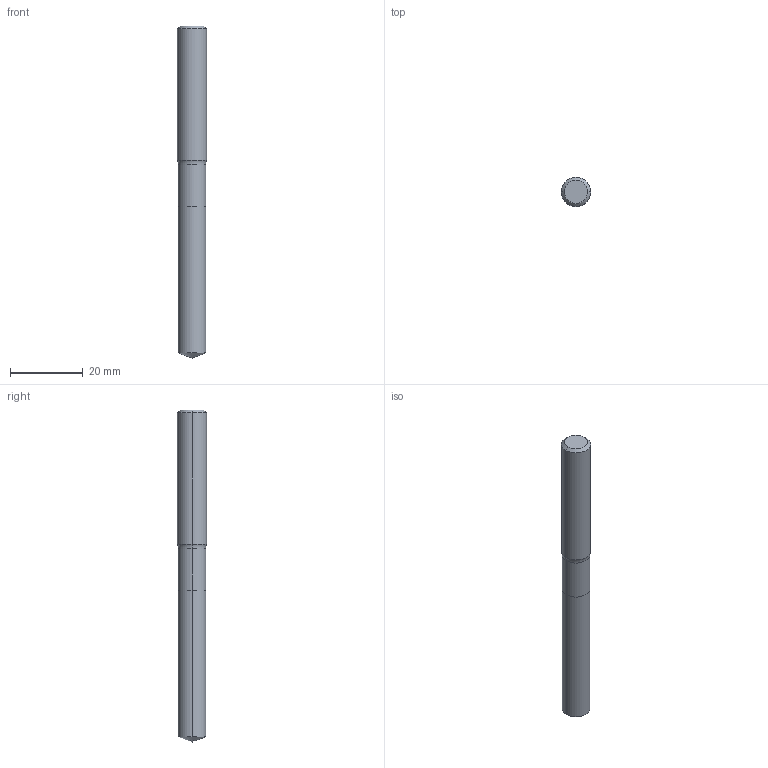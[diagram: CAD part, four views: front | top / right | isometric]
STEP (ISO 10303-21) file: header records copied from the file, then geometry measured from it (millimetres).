
FILE_DESCRIPTION (( 'STEP AP214' ), '1' );
FILE_NAME ('905.076.00_3D-model.step', '2022-02-24T17:46:46', ( '' ), ( '' ), 'SwSTEP 2.0', 'SolidWorks 2020', '' );
FILE_SCHEMA (( 'AUTOMOTIVE_DESIGN' ));
Length unit declared in the file: millimetre
Products named in the file (3): NOCUT-3D^Baugr62; 905.076.00_3D-model; CUT-3D^Baugr62
Assembly tree (2 placements, depth 2):
  905.076.00_3D-model
    CUT-3D^Baugr62
    NOCUT-3D^Baugr62
Bounding box: 8 x 8 x 91 mm (x, y, z)
Volume: 4261 mm3; surface area: 2363.6 mm2
Topology: 2 solids, 2 shells, 15 faces, 28 edges, 15 vertices
Faces by surface type: cylinder 6, cone 4, plane 3, torus 2
Entity records: 482 total; most frequent: DIRECTION 88, CARTESIAN_POINT 64, ORIENTED_EDGE 52, AXIS2_PLACEMENT_3D 39, EDGE_CURVE 26, CIRCLE 16, VERTEX_POINT 15, FACE_OUTER_BOUND 15
